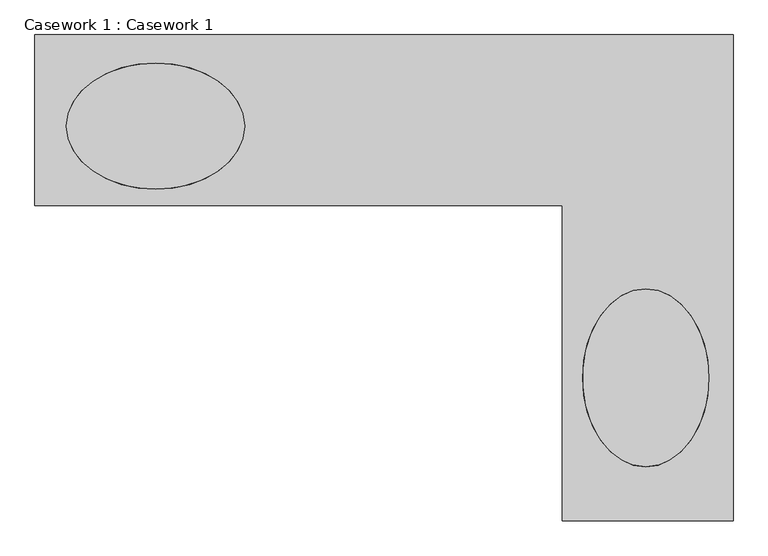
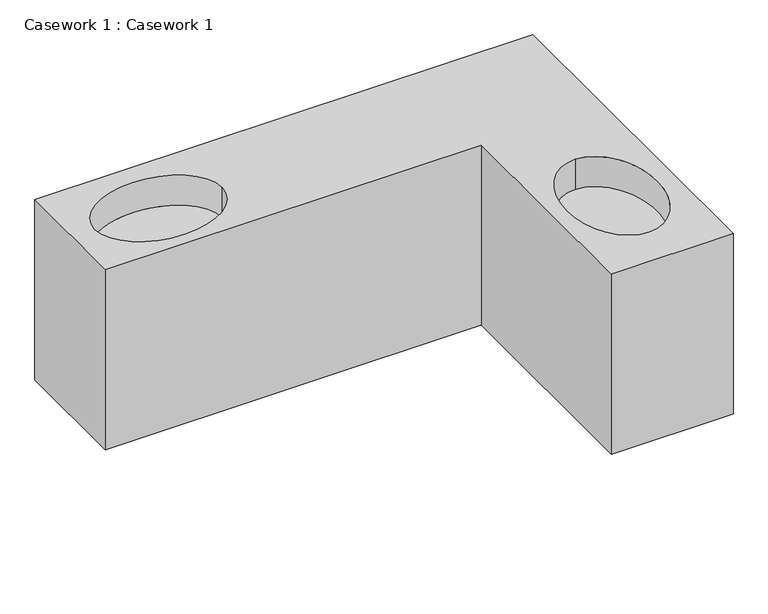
"""IFC4 building model written with IfcOpenShell, lengths in millimetres: furniture geometry, Casework 1 : Casework 1."""

from ifc_helpers import new_model, si_unit, point, frame, origin, place, context, project, spatial, ellipse_curve, trimmed, source, transform, mapped, element, save
from ifc_brep_helpers import plane_surface, extruded_surface, advanced_brep


def casework_1_casework_1_72d0735e(model_context):
    return source(origin(), model_context, "Body", "AdvancedBrep", [
        advanced_brep(
        [(-127.0, 14477.8947939, 4262.4), (-127.0, 13893.6947939, 4262.4), (1676.4, 13893.6947939, 4262.4), (1676.4, 12814.1947939, 4262.4), (2260.6, 12814.1947939, 4262.4), (2260.6, 14477.8947939, 4262.4), (-19.2497096, 14165.6832952, 4262.4), (590.3502904, 14165.6832952, 4262.4), (1962.1205148, 12999.2887118, 4262.4), (1962.1205148, 13608.8887118, 4262.4), (-127.0, 14477.8947939, 3348.0), (2260.6, 14477.8947939, 3348.0), (2260.6, 12814.1947939, 3348.0), (1676.4, 12814.1947939, 3348.0), (1676.4, 13893.6947939, 3348.0), (-127.0, 13893.6947939, 3348.0), (-19.2497096, 14165.6832952, 4110.0), (590.3502904, 14165.6832952, 4110.0), (1962.1205148, 12999.2887118, 4110.0), (1962.1205148, 13608.8887118, 4110.0)],
        [
            (0, 1),
            (1, 2),
            (2, 3),
            (3, 4),
            (4, 5),
            (5, 0),
            (6, 7, ellipse_curve(frame((285.5502904, 14165.6832952, 4262.4), z_axis=(0.0, 0.0, -1.0), x_axis=(-1.0, 0.0, 0.0)), 304.8, 215.9)),
            (7, 6, ellipse_curve(frame((285.5502904, 14165.6832952, 4262.4), z_axis=(0.0, 0.0, -1.0), x_axis=(-1.0, 0.0, 0.0)), 304.8, 215.9)),
            (8, 9, ellipse_curve(frame((1962.1205148, 13304.0887118, 4262.4), z_axis=(0.0, 0.0, -1.0), x_axis=(0.0, -1.0, 0.0)), 304.8, 215.9)),
            (9, 8, ellipse_curve(frame((1962.1205148, 13304.0887118, 4262.4), z_axis=(0.0, 0.0, -1.0), x_axis=(0.0, -1.0, 0.0)), 304.8, 215.9)),
            (10, 11),
            (11, 12),
            (12, 13),
            (13, 14),
            (14, 15),
            (15, 10),
            (0, 10),
            (15, 1),
            (14, 2),
            (13, 3),
            (12, 4),
            (11, 5),
            (16, 17, ellipse_curve(frame((285.5502904, 14165.6832952, 4110.0), z_axis=(0.0, 0.0, 1.0), x_axis=(-1.0, 0.0, 0.0)), 304.8, 215.9)),
            (17, 16, ellipse_curve(frame((285.5502904, 14165.6832952, 4110.0), z_axis=(0.0, 0.0, 1.0), x_axis=(-1.0, 0.0, 0.0)), 304.8, 215.9)),
            (18, 19, ellipse_curve(frame((1962.1205148, 13304.0887118, 4110.0), z_axis=(0.0, 0.0, 1.0), x_axis=(0.0, -1.0, 0.0)), 304.8, 215.9)),
            (19, 18, ellipse_curve(frame((1962.1205148, 13304.0887118, 4110.0), z_axis=(0.0, 0.0, 1.0), x_axis=(0.0, -1.0, 0.0)), 304.8, 215.9)),
            (17, 7),
            (6, 16),
            (19, 9),
            (8, 18),
        ],
        [
            plane_surface(frame((-127.0, 14477.8947939, 4262.4), z_axis=(0.0, 0.0, 1.0), x_axis=(0.0, -1.0, 0.0))),
            plane_surface(frame((-127.0, 14477.8947939, 3348.0), z_axis=(0.0, 0.0, -1.0), x_axis=(0.0, 1.0, 0.0))),
            plane_surface(frame((-127.0, 14477.8947939, 4262.4), z_axis=(-1.0, 0.0, 0.0), x_axis=(0.0, 0.0, -1.0))),
            plane_surface(frame((-127.0, 13893.6947939, 4262.4), z_axis=(0.0, -1.0, 0.0), x_axis=(0.0, 0.0, -1.0))),
            plane_surface(frame((1676.4, 13893.6947939, 4262.4), z_axis=(-1.0, 0.0, 0.0), x_axis=(0.0, 0.0, -1.0))),
            plane_surface(frame((1676.4, 12814.1947939, 4262.4), z_axis=(0.0, -1.0, 0.0), x_axis=(0.0, 0.0, -1.0))),
            plane_surface(frame((2260.6, 12814.1947939, 4262.4), z_axis=(1.0, 0.0, 0.0), x_axis=(0.0, 0.0, -1.0))),
            plane_surface(frame((2260.6, 14477.8947939, 4262.4), z_axis=(0.0, 1.0, 0.0), x_axis=(0.0, 0.0, -1.0))),
            plane_surface(frame((-19.2497096, 14165.6832952, 4110.0), z_axis=(0.0, 0.0, 1.0), x_axis=(0.0, 1.0, 0.0))),
            extruded_surface(trimmed(ellipse_curve(frame((285.5502904, 14165.6832952, 4262.4), z_axis=(0.0, 0.0, -1.0), x_axis=(-1.0, 0.0, 0.0)), 304.8, 215.9), [point((-19.2497096, 14165.6832952, 4262.4))], [point((590.3502904, 14165.6832952, 4262.4))], True, "CARTESIAN"), (0.0, 0.0, 152.40000000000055), 152.40000000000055),
            extruded_surface(trimmed(ellipse_curve(frame((285.5502904, 14165.6832952, 4262.4), z_axis=(0.0, 0.0, -1.0), x_axis=(-1.0, 0.0, 0.0)), 304.8, 215.9), [point((590.3502904, 14165.6832952, 4262.4))], [point((-19.2497096, 14165.6832952, 4262.4))], True, "CARTESIAN"), (0.0, 0.0, 152.40000000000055), 152.40000000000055),
            extruded_surface(trimmed(ellipse_curve(frame((1962.1205148, 13304.0887118, 4262.4), z_axis=(0.0, 0.0, -1.0), x_axis=(0.0, -1.0, 0.0)), 304.8, 215.9), [point((1962.1205148, 12999.2887118, 4262.4))], [point((1962.1205148, 13608.8887118, 4262.4))], True, "CARTESIAN"), (0.0, 0.0, 152.40000000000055), 152.40000000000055),
            extruded_surface(trimmed(ellipse_curve(frame((1962.1205148, 13304.0887118, 4262.4), z_axis=(0.0, 0.0, -1.0), x_axis=(0.0, -1.0, 0.0)), 304.8, 215.9), [point((1962.1205148, 13608.8887118, 4262.4))], [point((1962.1205148, 12999.2887118, 4262.4))], True, "CARTESIAN"), (0.0, 0.0, 152.40000000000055), 152.40000000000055),
        ],
        [
            (0, [[1, 2, 3, 4, 5, 6], [7, 8], [9, 10]]),
            (1, [[11, 12, 13, 14, 15, 16]]),
            (2, [[-1, 17, -16, 18]]),
            (3, [[-2, -18, -15, 19]]),
            (4, [[-3, -19, -14, 20]]),
            (5, [[-4, -20, -13, 21]]),
            (6, [[-5, -21, -12, 22]]),
            (7, [[-6, -22, -11, -17]]),
            (8, [[23, 24]]),
            (8, [[25, 26]]),
            (9, [[-24, 27, -7, 28]]),
            (10, [[-23, -28, -8, -27]]),
            (11, [[-26, 29, -9, 30]]),
            (12, [[-25, -30, -10, -29]]),
        ],
    ),
    ])


if __name__ == "__main__":
    model = new_model("IFC4")
    model_context = context("Model", 3, world=origin())
    ifc_project = project(units=[si_unit("LENGTHUNIT", "METRE", prefix="MILLI")], contexts=[model_context])
    site = spatial("IfcSite", under=ifc_project)
    building = spatial("IfcBuilding", under=site)
    placement = place(None, origin())
    casework_1_casework_1_shape = casework_1_casework_1_72d0735e(model_context)
    element("IfcFurniture", 1, ObjectType="Casework 1 : Casework 1", at=placement, inside=building, context=model_context, shape_type="MappedRepresentation", body=[
        mapped(casework_1_casework_1_shape, transform((0.0, 0.0, 0.0), x_axis=(1.0, 0.0, 0.0), y_axis=(0.0, 1.0, 0.0), z_axis=(0.0, 0.0, 1.0))),
    ])
    save(model, "model.ifc")
